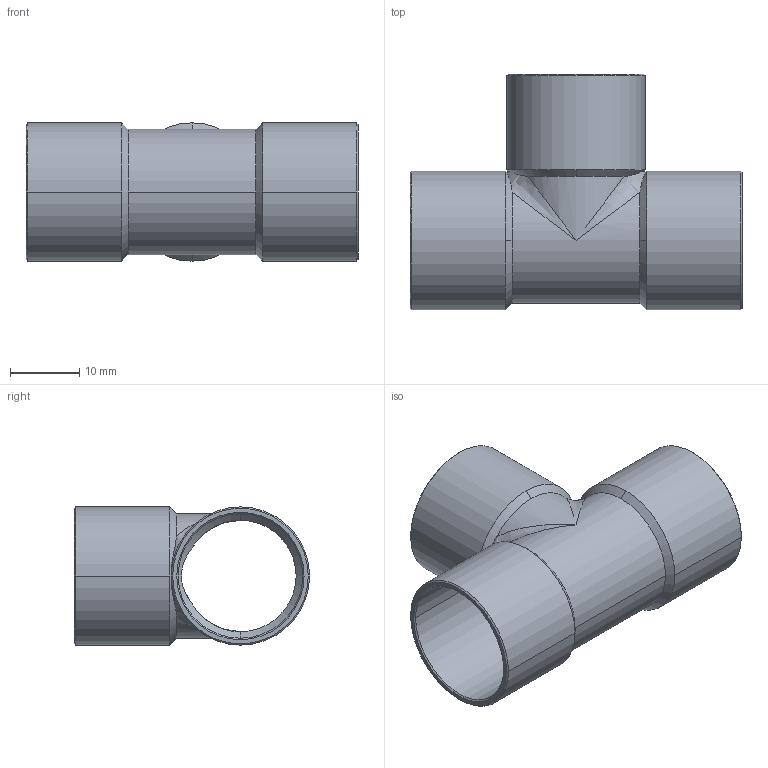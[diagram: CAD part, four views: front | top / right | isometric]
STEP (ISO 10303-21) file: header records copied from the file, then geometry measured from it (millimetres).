
FILE_DESCRIPTION((''),'2;1');
FILE_NAME('P:\Bouwmaten\z-maattekeningen 3D\5000\5130\d\513018.stp','2005-10-19T08:44:21',('Kris'),(''),'Autodesk Inventor 8','Autodesk Inventor 8','');
FILE_SCHEMA(('AUTOMOTIVE_DESIGN { 1 0 10303 214 1 1 1 1 }'));
Length unit declared in the file: millimetre
Products named in the file (1): 513018
Bounding box: 48 x 34 x 20 mm (x, y, z)
Volume: 3559.3 mm3; surface area: 7266.3 mm2
Topology: 1 solids, 1 shells, 51 faces, 142 edges, 84 vertices
Faces by surface type: cone 24, cylinder 20, bspline 4, plane 3
Entity records: 2139 total; most frequent: CARTESIAN_POINT 798, DIRECTION 310, ORIENTED_EDGE 268, AXIS2_PLACEMENT_3D 136, EDGE_CURVE 134, VERTEX_POINT 84, CIRCLE 72, EDGE_LOOP 54
